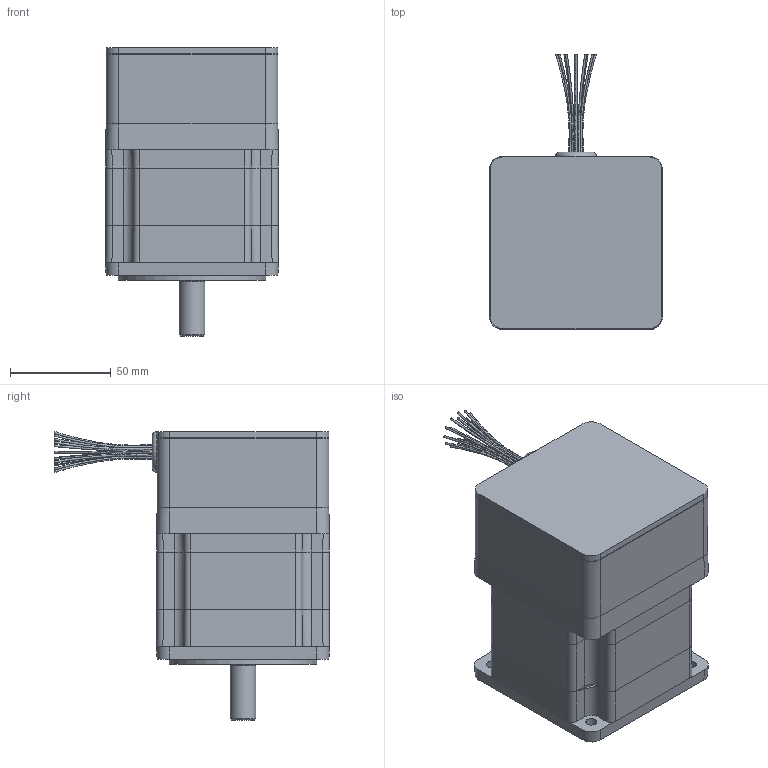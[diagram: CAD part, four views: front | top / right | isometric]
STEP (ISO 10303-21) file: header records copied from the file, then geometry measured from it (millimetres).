
FILE_DESCRIPTION((''),'2;1');
FILE_NAME('C:\CAD_work\Dummy_Modeling_Project_02-12-05\3D MODELS\BE341_FL.stp','2005-12-20T16:05:28',('jevans'),(''),'Autodesk Inventor 10','Autodesk Inventor 10','');
FILE_SCHEMA(('AUTOMOTIVE_DESIGN { 1 0 10303 214 1 1 1 1 }'));
Length unit declared in the file: inch
Products named in the file (1): BE34_FL
Bounding box: 85.66 x 136.17 x 143.13 mm (x, y, z)
Volume: 772049.6 mm3; surface area: 67172.4 mm2
Topology: 4 solids, 4 shells, 255 faces, 581 edges, 360 vertices
Faces by surface type: plane 140, cylinder 83, bspline 25, cone 6, torus 1
Full cylindrical faces by diameter (mm): 2.5 x2, 7.95 x1, 12.7 x1, 14.994 x1, 15 x1, 20.32 x1, 32 x1, 32.007 x1, 35.001 x1, 36.779 x1, 37.109 x1, 41.326 x3, 73.025 x1
Entity records: 9135 total; most frequent: CARTESIAN_POINT 3497, DIRECTION 1187, ORIENTED_EDGE 1084, EDGE_CURVE 542, AXIS2_PLACEMENT_3D 450, VERTEX_POINT 351, EDGE_LOOP 327, VECTOR 287
